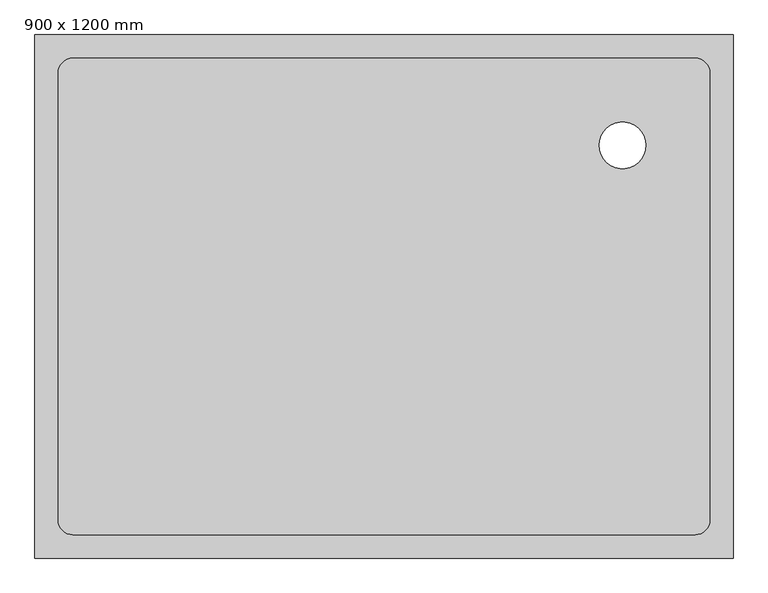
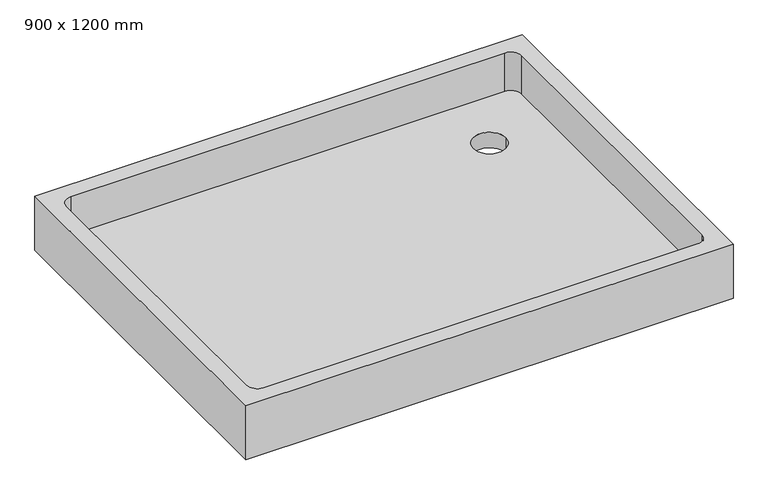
"""IFC4 building model written with IfcOpenShell, lengths in millimetres: flow terminal geometry, Receveur d'angle - Vidange en angle : 900 x 1200 mm."""

from ifc_helpers import new_model, si_unit, frame, origin, place, context, project, spatial, polyline, circle_curve, source, transform, mapped, element, save
from ifc_brep_helpers import plane_surface, revolved_surface, advanced_brep


def flow_terminal_900_x_1200_mm_9329deb4(model_context):
    return source(origin(), model_context, "Body", "AdvancedBrep", [
        advanced_brep(
        [(600.0, -450.0, 140.0), (600.0, 450.0, 140.0), (-600.0, 450.0, 140.0), (-600.0, -450.0, 140.0), (560.0, 384.6, 140.0), (560.0, -384.6, 140.0), (534.6, -410.0, 140.0), (-534.6, -410.0, 140.0), (-560.0, -384.6, 140.0), (-560.0, 384.6, 140.0), (-534.6, 410.0, 140.0), (534.6, 410.0, 140.0), (600.0, -450.0, 0.0), (-600.0, -450.0, 0.0), (-600.0, 450.0, 0.0), (600.0, 450.0, 0.0), (370.0, 260.0, 0.0), (450.0, 260.0, 0.0), (534.6, 410.0, 40.0), (-534.6, 410.0, 40.0), (-560.0, 384.6, 40.0), (-560.0, -384.6, 40.0), (-534.6, -410.0, 40.0), (534.6, -410.0, 40.0), (560.0, -384.6, 40.0), (560.0, 384.6, 40.0), (450.0, 260.0, 40.0), (370.0, 260.0, 40.0)],
        [
            (0, 1),
            (1, 2),
            (2, 3),
            (3, 0),
            (4, 5),
            (5, 6, circle_curve(frame((534.6, -384.6, 140.0), z_axis=(0.0, 0.0, -1.0), x_axis=(1.0, 0.0, 0.0)), 25.4)),
            (6, 7),
            (7, 8, circle_curve(frame((-534.6, -384.6, 140.0), z_axis=(0.0, 0.0, -1.0), x_axis=(1.0, 0.0, 0.0)), 25.4)),
            (8, 9),
            (9, 10, circle_curve(frame((-534.6, 384.6, 140.0), z_axis=(0.0, 0.0, -1.0), x_axis=(1.0, 0.0, 0.0)), 25.4)),
            (10, 11),
            (11, 4, circle_curve(frame((534.6, 384.6, 140.0), z_axis=(0.0, 0.0, -1.0), x_axis=(1.0, 0.0, 0.0)), 25.4)),
            (12, 13),
            (13, 14),
            (14, 15),
            (15, 12),
            (16, 17, circle_curve(frame((410.0, 260.0, 0.0), z_axis=(0.0, 0.0, 1.0), x_axis=(1.0, 0.0, 0.0)), 40.0)),
            (17, 16, circle_curve(frame((410.0, 260.0, 0.0), z_axis=(0.0, 0.0, 1.0), x_axis=(1.0, 0.0, 0.0)), 40.0)),
            (3, 13),
            (12, 0),
            (2, 14),
            (1, 15),
            (18, 19),
            (19, 20, circle_curve(frame((-534.6, 384.6, 40.0), z_axis=(0.0, 0.0, 1.0), x_axis=(1.0, 0.0, 0.0)), 25.4)),
            (20, 21),
            (21, 22, circle_curve(frame((-534.6, -384.6, 40.0), z_axis=(0.0, 0.0, 1.0), x_axis=(1.0, 0.0, 0.0)), 25.4)),
            (22, 23),
            (23, 24, circle_curve(frame((534.6, -384.6, 40.0), z_axis=(0.0, 0.0, 1.0), x_axis=(1.0, 0.0, 0.0)), 25.4)),
            (24, 25),
            (25, 18, circle_curve(frame((534.6, 384.6, 40.0), z_axis=(0.0, 0.0, 1.0), x_axis=(1.0, 0.0, 0.0)), 25.4)),
            (26, 27, circle_curve(frame((410.0, 260.0, 40.0), z_axis=(0.0, 0.0, -1.0), x_axis=(1.0, 0.0, 0.0)), 40.0)),
            (27, 26, circle_curve(frame((410.0, 260.0, 40.0), z_axis=(0.0, 0.0, -1.0), x_axis=(1.0, 0.0, 0.0)), 40.0)),
            (25, 4),
            (11, 18),
            (24, 5),
            (23, 6),
            (22, 7),
            (21, 8),
            (20, 9),
            (19, 10),
            (17, 26),
            (27, 16),
        ],
        [
            plane_surface(frame((-600.0, -450.0, 140.0), z_axis=(0.0, 0.0, 1.0), x_axis=(-1.0, 0.0, 0.0))),
            plane_surface(frame((-600.0, -450.0, 0.0), z_axis=(0.0, 0.0, -1.0), x_axis=(1.0, 0.0, 0.0))),
            plane_surface(frame((600.0, -450.0, 140.0), z_axis=(0.0, -1.0, 0.0), x_axis=(0.0, 0.0, -1.0))),
            plane_surface(frame((-600.0, -450.0, 140.0), z_axis=(-1.0, 0.0, 0.0), x_axis=(0.0, 0.0, -1.0))),
            plane_surface(frame((-600.0, 450.0, 140.0), z_axis=(0.0, 1.0, 0.0), x_axis=(0.0, 0.0, -1.0))),
            plane_surface(frame((600.0, 450.0, 140.0), z_axis=(1.0, 0.0, 0.0), x_axis=(0.0, 0.0, -1.0))),
            plane_surface(frame((560.0, 384.6, 40.0), z_axis=(0.0, 0.0, 1.0), x_axis=(0.0, 1.0, 0.0))),
            revolved_surface(polyline([(560.0, 384.6, 140.0), (560.0, 384.6, 40.0)]), (534.6, 384.6, 40.0), (0.0, 0.0, 1.0)),
            plane_surface(frame((560.0, 384.6, 140.0), z_axis=(-1.0, 0.0, 0.0), x_axis=(0.0, 0.0, -1.0))),
            revolved_surface(polyline([(560.0, -384.6, 140.0), (560.0, -384.6, 40.0)]), (534.6, -384.6, 40.0), (0.0, 0.0, 1.0)),
            plane_surface(frame((534.6, -410.0, 140.0), z_axis=(0.0, 1.0, 0.0), x_axis=(0.0, 0.0, -1.0))),
            revolved_surface(polyline([(-509.20000000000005, -384.6, 140.0), (-509.20000000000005, -384.6, 40.0)]), (-534.6, -384.6, 40.0), (0.0, 0.0, 1.0)),
            plane_surface(frame((-560.0, -384.6, 140.0), z_axis=(1.0, 0.0, 0.0), x_axis=(0.0, 0.0, -1.0))),
            revolved_surface(polyline([(-509.20000000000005, 384.6, 140.0), (-509.20000000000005, 384.6, 40.0)]), (-534.6, 384.6, 40.0), (0.0, 0.0, 1.0)),
            plane_surface(frame((-534.6, 410.0, 140.0), z_axis=(0.0, -1.0, 0.0), x_axis=(0.0, 0.0, -1.0))),
            revolved_surface(polyline([(450.0, 260.0, 40.0), (450.0, 260.0, 0.0)]), (410.0, 260.0, 0.0), (0.0, 0.0, 1.0)),
        ],
        [
            (0, [[1, 2, 3, 4], [5, 6, 7, 8, 9, 10, 11, 12]]),
            (1, [[13, 14, 15, 16], [17, 18]]),
            (2, [[19, -13, 20, -4]]),
            (3, [[21, -14, -19, -3]]),
            (4, [[22, -15, -21, -2]]),
            (5, [[-20, -16, -22, -1]]),
            (6, [[23, 24, 25, 26, 27, 28, 29, 30], [31, 32]]),
            (7, [[33, -12, 34, -30]]),
            (8, [[35, -5, -33, -29]]),
            (9, [[36, -6, -35, -28]]),
            (10, [[37, -7, -36, -27]]),
            (11, [[38, -8, -37, -26]]),
            (12, [[39, -9, -38, -25]]),
            (13, [[40, -10, -39, -24]]),
            (14, [[-34, -11, -40, -23]]),
            (15, [[-18, 41, -32, 42]]),
            (15, [[-31, -41, -17, -42]]),
        ],
    ),
    ])


if __name__ == "__main__":
    model = new_model("IFC4")
    model_context = context("Model", 3, world=origin())
    ifc_project = project(units=[si_unit("LENGTHUNIT", "METRE", prefix="MILLI")], contexts=[model_context])
    site = spatial("IfcSite", under=ifc_project)
    building = spatial("IfcBuilding", under=site)
    placement = place(None, origin())
    flow_terminal_900_x_1200_mm_shape = flow_terminal_900_x_1200_mm_9329deb4(model_context)
    element("IfcFlowTerminal", 1, ObjectType="Receveur d'angle - Vidange en angle : 900 x 1200 mm", at=placement, inside=building, context=model_context, shape_type="MappedRepresentation", body=[
        mapped(flow_terminal_900_x_1200_mm_shape, transform((0.0, 0.0, 0.0), x_axis=(1.0, 0.0, 0.0), y_axis=(0.0, 1.0, 0.0), z_axis=(0.0, 0.0, 1.0))),
    ])
    save(model, "model.ifc")
